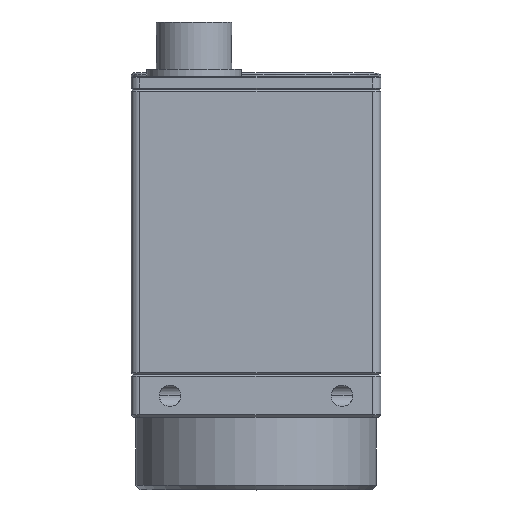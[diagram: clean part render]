
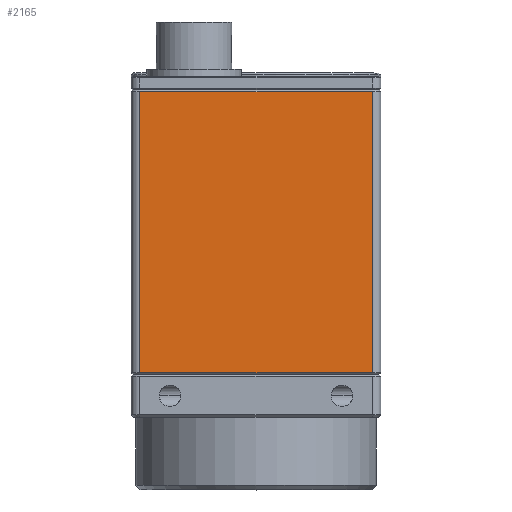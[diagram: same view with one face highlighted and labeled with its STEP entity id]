
A CAD part, top view. The second image highlights one B-rep face of the part: STEP entity #2165.
In plain terms, the highlighted planar face has unit normal (0, 0, 1).
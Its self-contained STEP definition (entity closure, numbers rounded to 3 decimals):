
#465 = DIRECTION ( 'NONE',  ( -1., 0., 0. ) ) ;
#1712 = CARTESIAN_POINT ( 'NONE',  ( -14.5, 28.1, 14.5 ) ) ;
#2165 = ADVANCED_FACE ( 'NONE', ( #33727 ), #8482, .F. ) ;
#3279 = CARTESIAN_POINT ( 'NONE',  ( -13.5, 28.1, 14.5 ) ) ;
#6351 = VECTOR ( 'NONE', #10280, 1000. ) ;
#8011 = EDGE_CURVE ( 'NONE', #45939, #14446, #34846, .T. ) ;
#8482 = PLANE ( 'NONE',  #15713 ) ;
#9466 = CARTESIAN_POINT ( 'NONE',  ( -13.5, 27.9, 14.5 ) ) ;
#10280 = DIRECTION ( 'NONE',  ( 1., 0., 0. ) ) ;
#10352 = CARTESIAN_POINT ( 'NONE',  ( 13.5, 28.1, 14.5 ) ) ;
#11291 = CARTESIAN_POINT ( 'NONE',  ( 13.5, 27.9, 14.5 ) ) ;
#12493 = ORIENTED_EDGE ( 'NONE', *, *, #25437, .T. ) ;
#14446 = VERTEX_POINT ( 'NONE', #19551 ) ;
#15713 = AXIS2_PLACEMENT_3D ( 'NONE', #1712, #22987, #15960 ) ;
#15781 = CARTESIAN_POINT ( 'NONE',  ( -13.5, -4.8, 14.5 ) ) ;
#15960 = DIRECTION ( 'NONE',  ( -1., 0., 0. ) ) ;
#16839 = CARTESIAN_POINT ( 'NONE',  ( -14.5, -4.8, 14.5 ) ) ;
#19445 = VERTEX_POINT ( 'NONE', #9466 ) ;
#19551 = CARTESIAN_POINT ( 'NONE',  ( 13.5, -4.8, 14.5 ) ) ;
#19752 = VERTEX_POINT ( 'NONE', #11291 ) ;
#20621 = VECTOR ( 'NONE', #465, 1000. ) ;
#20790 = VECTOR ( 'NONE', #24621, 1000. ) ;
#21239 = CARTESIAN_POINT ( 'NONE',  ( -13.5, 27.9, 14.5 ) ) ;
#22987 = DIRECTION ( 'NONE',  ( 0., 0., -1. ) ) ;
#24196 = EDGE_CURVE ( 'NONE', #19752, #19445, #25213, .T. ) ;
#24621 = DIRECTION ( 'NONE',  ( 0., 1., 0. ) ) ;
#24840 = LINE ( 'NONE', #10352, #20790 ) ;
#25213 = LINE ( 'NONE', #21239, #20621 ) ;
#25437 = EDGE_CURVE ( 'NONE', #19445, #45939, #45595, .T. ) ;
#27985 = EDGE_CURVE ( 'NONE', #14446, #19752, #24840, .T. ) ;
#33727 = FACE_OUTER_BOUND ( 'NONE', #36273, .T. ) ;
#34846 = LINE ( 'NONE', #16839, #6351 ) ;
#35088 = DIRECTION ( 'NONE',  ( 0., -1., 0. ) ) ;
#35265 = ORIENTED_EDGE ( 'NONE', *, *, #24196, .T. ) ;
#35817 = ORIENTED_EDGE ( 'NONE', *, *, #27985, .T. ) ;
#36273 = EDGE_LOOP ( 'NONE', ( #12493, #38064, #35817, #35265 ) ) ;
#38064 = ORIENTED_EDGE ( 'NONE', *, *, #8011, .T. ) ;
#43847 = VECTOR ( 'NONE', #35088, 1000. ) ;
#45595 = LINE ( 'NONE', #3279, #43847 ) ;
#45939 = VERTEX_POINT ( 'NONE', #15781 ) ;
